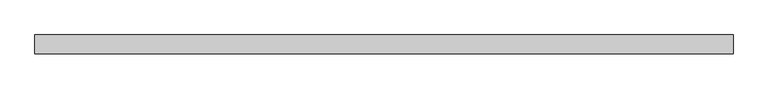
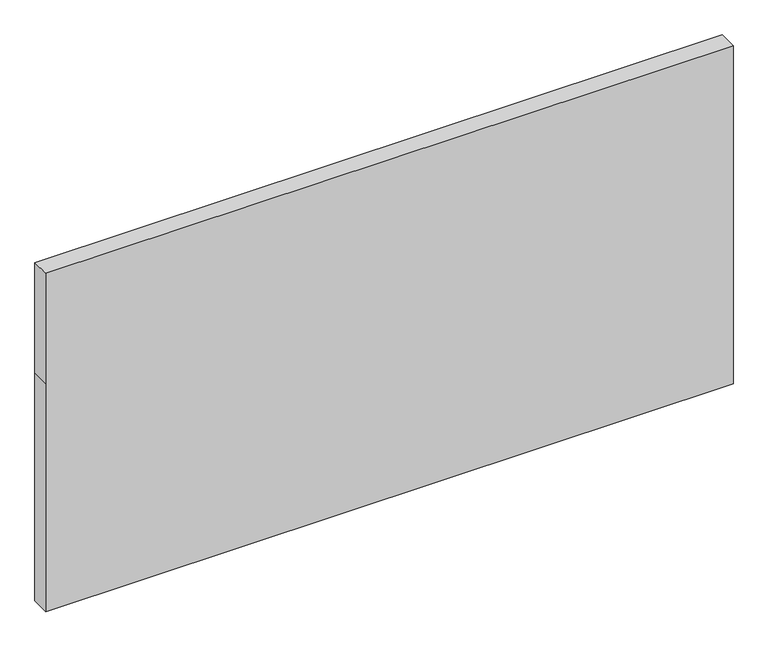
"""IFC4 building model written with IfcOpenShell, lengths in millimetres: plate geometry, 系统嵌板 : 玻璃."""

from ifc_helpers import new_model, si_unit, frame, origin, place, context, project, spatial, polyline, outline, extrude, source, transform, mapped, element, save


def plate_71bd4e08(model_context):
    return source(origin(), model_context, "Body", "SweptSolid", [
        extrude(outline(polyline([(0.0, -1105.0), (0.0, 1105.0), (775.0, 1105.0), (1150.0, 1105.0), (1150.0, -1105.0), (775.0, -1105.0), (0.0, -1105.0)])), frame((0.0, -30.0, 0.0), z_axis=(0.0, 1.0, 0.0), x_axis=(0.0, 0.0, 1.0)), (0.0, 0.0, 1.0), 60.0),
    ])


if __name__ == "__main__":
    model = new_model("IFC4")
    model_context = context("Model", 3, world=origin())
    ifc_project = project(units=[si_unit("LENGTHUNIT", "METRE", prefix="MILLI")], contexts=[model_context])
    site = spatial("IfcSite", under=ifc_project)
    building = spatial("IfcBuilding", under=site)
    placement = place(None, origin())
    plate_shape = plate_71bd4e08(model_context)
    element("IfcPlate", 1, ObjectType="系统嵌板 : 玻璃", at=placement, inside=building, context=model_context, shape_type="MappedRepresentation", body=[
        mapped(plate_shape, transform((0.0, 0.0, 0.0), x_axis=(1.0, 0.0, 0.0), y_axis=(0.0, 1.0, 0.0), z_axis=(0.0, 0.0, 1.0))),
    ])
    save(model, "model.ifc")
